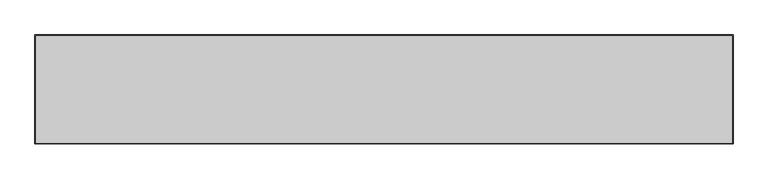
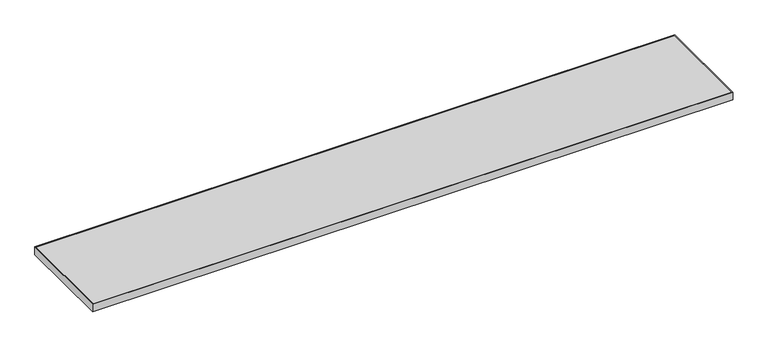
"""IFC4 building model written with IfcOpenShell, lengths in millimetres: furniture geometry, Steelcase - Universal Storage - Square Edge Top - Flush Front - Laminate : Common Top - 15D x 96W."""

from ifc_helpers import new_model, si_unit, frame, origin, place, context, project, spatial, polyline, outline, extrude, source, transform, mapped, element, save


def furniture_a70e01d4(model_context):
    return source(origin(), model_context, "Body", "SweptSolid", [
        extrude(outline(polyline([(2435.3520001, -3.0479999), (2435.3520001, -377.9520001), (3.0479999, -377.9520001), (3.0479999, -3.0479999), (2435.3520001, -3.0479999)])), frame((0.0, 0.0, 680.72), z_axis=(0.0, 0.0, 1.0), x_axis=(1.0, 0.0, 0.0)), (0.0, 0.0, 1.0), 30.48),
        extrude(outline(polyline([(2438.4, 0.0), (2438.4, -381.0), (0.0, -381.0), (0.0, 0.0), (2438.4, 0.0)]), holes=[polyline([(2435.3520001, -3.0479999), (3.0479999, -3.0479999), (3.0479999, -377.9520001), (2435.3520001, -377.9520001), (2435.3520001, -3.0479999)])]), frame((0.0, 0.0, 680.72), z_axis=(0.0, 0.0, 1.0), x_axis=(1.0, 0.0, 0.0)), (0.0, 0.0, 1.0), 30.48),
    ])


if __name__ == "__main__":
    model = new_model("IFC4")
    model_context = context("Model", 3, world=origin())
    ifc_project = project(units=[si_unit("LENGTHUNIT", "METRE", prefix="MILLI")], contexts=[model_context])
    site = spatial("IfcSite", under=ifc_project)
    building = spatial("IfcBuilding", under=site)
    placement = place(None, origin())
    furniture_shape = furniture_a70e01d4(model_context)
    element("IfcFurniture", 1, ObjectType="Steelcase - Universal Storage - Square Edge Top - Flush Front - Laminate : Common Top - 15D x 96W", at=placement, inside=building, context=model_context, shape_type="MappedRepresentation", body=[
        mapped(furniture_shape, transform((0.0, 0.0, 0.0), x_axis=(1.0, 0.0, 0.0), y_axis=(0.0, 1.0, 0.0), z_axis=(0.0, 0.0, 1.0))),
    ])
    save(model, "model.ifc")
